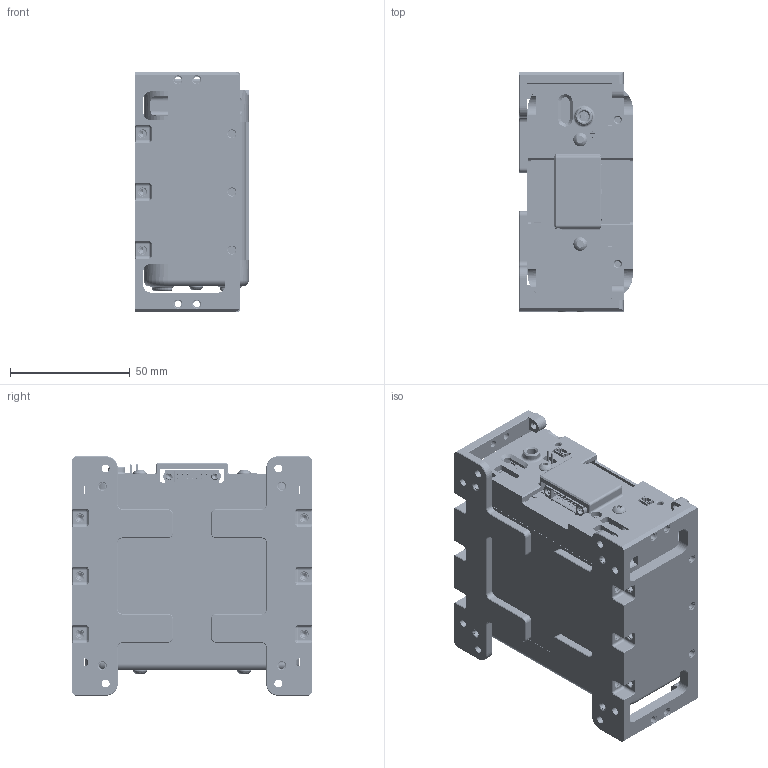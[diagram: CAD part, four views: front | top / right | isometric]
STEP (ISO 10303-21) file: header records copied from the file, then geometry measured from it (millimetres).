
FILE_DESCRIPTION (( 'STEP AP214' ), '1' );
FILE_NAME ('710-01552 Battery Module 2 Rev A Opt 00.STEP', '2017-02-16T18:32:57', ( '' ), ( '' ), 'SwSTEP 2.0', 'SolidWorks 2014', '' );
FILE_SCHEMA (( 'AUTOMOTIVE_DESIGN' ));
Length unit declared in the file: inch
Products named in the file (2): 710-01552 Battery Module 2 Rev A Opt 00
Bounding box: 47.63 x 99.99 x 100 mm (x, y, z)
Volume: 336767.8 mm3; surface area: 76121.5 mm2
Topology: 1 solids, 5 shells, 4736 faces, 13008 edges, 8313 vertices
Faces by surface type: plane 2337, cylinder 1214, cone 600, torus 381, bspline 184, sphere 20
Entity records: 190170 total; most frequent: CARTESIAN_POINT 57512, ORIENTED_EDGE 25928, DIRECTION 24668, EDGE_CURVE 12964, AXIS2_PLACEMENT_3D 8605, VERTEX_POINT 8313, LINE 7458, VECTOR 7458
